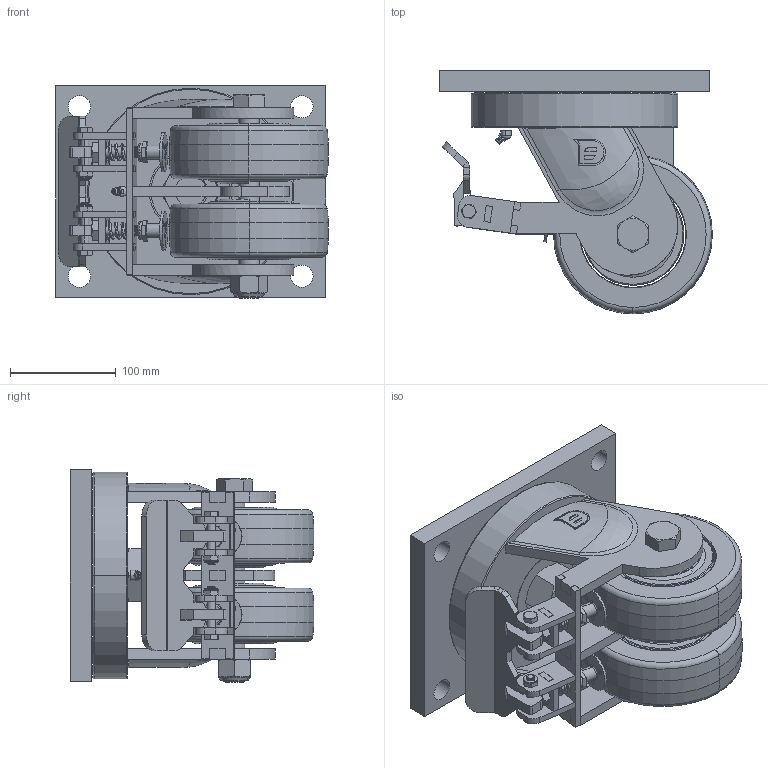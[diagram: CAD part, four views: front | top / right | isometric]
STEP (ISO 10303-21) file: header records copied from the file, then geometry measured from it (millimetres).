
FILE_DESCRIPTION((''),'2;1');
FILE_NAME('PRT0002','2025-08-28T14:49:06',('Administrator'),(''),'CREO PARAMETRIC BY PTC INC, 2022484','CREO PARAMETRIC BY PTC INC, 2022484','');
FILE_SCHEMA(('AUTOMOTIVE_DESIGN { 1 0 10303 214 1 1 1 1 }'));
Length unit declared in the file: millimetre
Products named in the file (1): PRT0002
Bounding box: 257.5 x 230 x 201 mm (x, y, z)
Surface area: 422580.3 mm2 (no closed solid volume)
Topology: 0 solids, 67 shells, 471 faces, 1727 edges, 1292 vertices
Faces by surface type: plane 211, cylinder 125, cone 46, bspline 45, torus 44
Entity records: 31794 total; most frequent: CARTESIAN_POINT 14633, DIRECTION 2647, ORIENTED_EDGE 2527, EDGE_CURVE 1727, VERTEX_POINT 1292, VECTOR 915, LINE 915, AXIS2_PLACEMENT_3D 866
